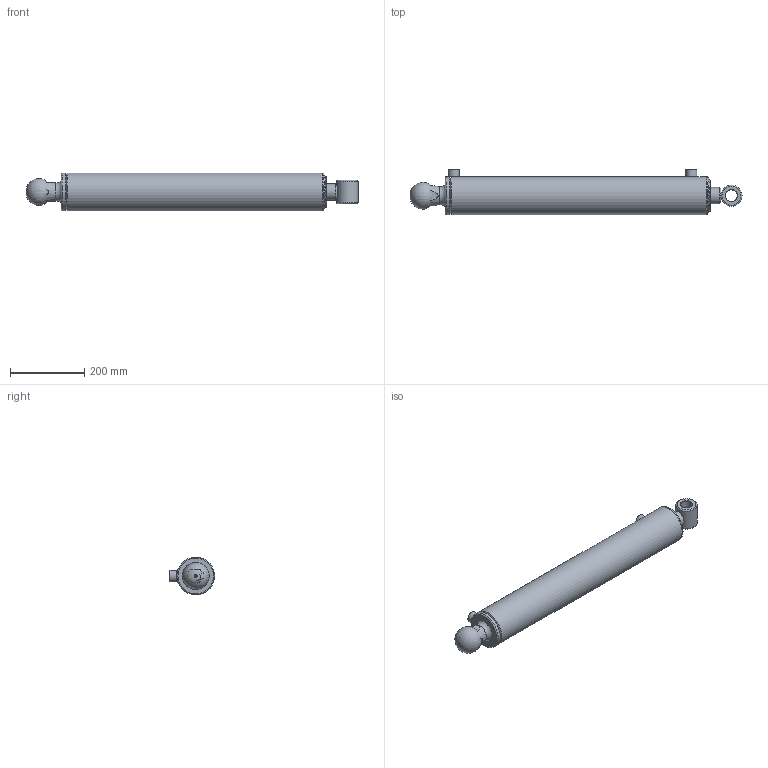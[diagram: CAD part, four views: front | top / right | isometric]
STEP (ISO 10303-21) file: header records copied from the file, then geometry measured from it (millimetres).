
FILE_DESCRIPTION(/* description */ ('Alibre Inc.'),/* implementation_level */ '2;1');
FILE_NAME(/* name */ 'export0',/* time_stamp */ '2016-08-16T10:05:15+12:00',/* author */ (''),/* organization */ (''),/* preprocessor_version */ 'ST-DEVELOPER v14',/* originating_system */ 'Alibre',/* authorisation */ '');
FILE_SCHEMA (('AUTOMOTIVE_DESIGN'));
Length unit declared in the file: centimetre
Bounding box: 894.86 x 121.6 x 101.6 mm (x, y, z)
Volume: 3421944.9 mm3; surface area: 729030.6 mm2
Topology: 12 solids, 12 shells, 148 faces, 306 edges, 191 vertices
Faces by surface type: cylinder 57, plane 48, cone 26, torus 16, bspline 1
Full cylindrical faces by diameter (mm): 7 x1, 8.3 x2, 8.4 x1, 12.7 x2, 19.1 x2, 29.35 x1, 29.972 x1, 30 x2, 31.75 x1, 31.8 x1, 31.801 x1, 44.45 x2, 44.53 x2, 50.8 x1, 53.25 x2, 53.97 x2, 57.15 x1, 73.03 x1, 81.9 x1, 83.06 x1, 84.3 x2, 85.27 x2, 85.5 x1, 87.53 x2, 88.75 x1, 88.79 x2, 88.9 x2, 92.1 x1, 101.6 x3
Entity records: 4071 total; most frequent: CARTESIAN_POINT 1180, DIRECTION 562, ORIENTED_EDGE 372, AXIS2_PLACEMENT_3D 297, FACE_BOUND 270, EDGE_LOOP 267, EDGE_CURVE 186, VERTEX_POINT 166
